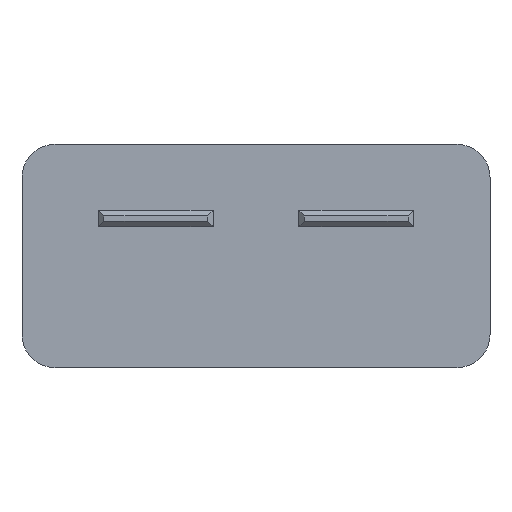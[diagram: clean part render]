
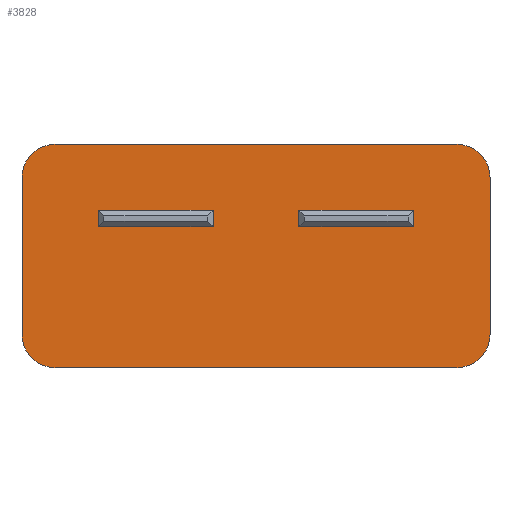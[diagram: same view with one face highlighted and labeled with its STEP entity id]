
A CAD part, front view. The second image highlights one B-rep face of the part: STEP entity #3828.
In plain terms, the highlighted planar face has unit normal (0, -1, 0).
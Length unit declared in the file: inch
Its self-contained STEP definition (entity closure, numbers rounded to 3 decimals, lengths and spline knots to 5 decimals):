
#25=CIRCLE('',#4002,0.06);
#27=CIRCLE('',#4007,0.06);
#28=CIRCLE('',#4008,0.06);
#29=CIRCLE('',#4009,0.06);
#54=FACE_BOUND('',#562,.T.);
#55=FACE_BOUND('',#563,.T.);
#329=FACE_OUTER_BOUND('',#561,.T.);
#561=EDGE_LOOP('',(#3405,#3406,#3407,#3408,#3409,#3410,#3411,#3412));
#562=EDGE_LOOP('',(#3413,#3414,#3415,#3416));
#563=EDGE_LOOP('',(#3417,#3418,#3419,#3420));
#1031=LINE('',#6766,#1425);
#1033=LINE('',#6770,#1427);
#1035=LINE('',#6774,#1429);
#1037=LINE('',#6777,#1431);
#1082=LINE('',#6869,#1476);
#1085=LINE('',#6874,#1479);
#1087=LINE('',#6878,#1481);
#1088=LINE('',#6880,#1482);
#1092=LINE('',#6899,#1486);
#1094=LINE('',#6903,#1488);
#1095=LINE('',#6907,#1489);
#1096=LINE('',#6911,#1490);
#1425=VECTOR('',#4563,0.3937);
#1427=VECTOR('',#4567,0.3937);
#1429=VECTOR('',#4571,0.3937);
#1431=VECTOR('',#4575,0.3937);
#1476=VECTOR('',#4668,0.3937);
#1479=VECTOR('',#4673,0.3937);
#1481=VECTOR('',#4677,0.3937);
#1482=VECTOR('',#4680,0.3937);
#1486=VECTOR('',#4702,0.3937);
#1488=VECTOR('',#4706,0.3937);
#1489=VECTOR('',#4709,0.3937);
#1490=VECTOR('',#4712,0.3937);
#1794=VERTEX_POINT('',#6763);
#1795=VERTEX_POINT('',#6765);
#1796=VERTEX_POINT('',#6769);
#1797=VERTEX_POINT('',#6773);
#1819=VERTEX_POINT('',#6866);
#1820=VERTEX_POINT('',#6868);
#1821=VERTEX_POINT('',#6872);
#1822=VERTEX_POINT('',#6876);
#1825=VERTEX_POINT('',#6888);
#1826=VERTEX_POINT('',#6889);
#1828=VERTEX_POINT('',#6898);
#1829=VERTEX_POINT('',#6902);
#1830=VERTEX_POINT('',#6904);
#1831=VERTEX_POINT('',#6906);
#1832=VERTEX_POINT('',#6908);
#1833=VERTEX_POINT('',#6910);
#2293=EDGE_CURVE('',#1795,#1794,#1031,.T.);
#2295=EDGE_CURVE('',#1796,#1795,#1033,.T.);
#2297=EDGE_CURVE('',#1797,#1796,#1035,.T.);
#2299=EDGE_CURVE('',#1794,#1797,#1037,.T.);
#2344=EDGE_CURVE('',#1820,#1819,#1082,.T.);
#2347=EDGE_CURVE('',#1819,#1821,#1085,.T.);
#2349=EDGE_CURVE('',#1821,#1822,#1087,.T.);
#2350=EDGE_CURVE('',#1822,#1820,#1088,.T.);
#2354=EDGE_CURVE('',#1825,#1826,#25,.T.);
#2359=EDGE_CURVE('',#1828,#1826,#1092,.T.);
#2361=EDGE_CURVE('',#1825,#1829,#1094,.T.);
#2362=EDGE_CURVE('',#1830,#1829,#27,.T.);
#2363=EDGE_CURVE('',#1830,#1831,#1095,.T.);
#2364=EDGE_CURVE('',#1832,#1831,#28,.T.);
#2365=EDGE_CURVE('',#1832,#1833,#1096,.T.);
#2366=EDGE_CURVE('',#1828,#1833,#29,.T.);
#3405=ORIENTED_EDGE('',*,*,#2354,.F.);
#3406=ORIENTED_EDGE('',*,*,#2361,.T.);
#3407=ORIENTED_EDGE('',*,*,#2362,.F.);
#3408=ORIENTED_EDGE('',*,*,#2363,.T.);
#3409=ORIENTED_EDGE('',*,*,#2364,.F.);
#3410=ORIENTED_EDGE('',*,*,#2365,.T.);
#3411=ORIENTED_EDGE('',*,*,#2366,.F.);
#3412=ORIENTED_EDGE('',*,*,#2359,.T.);
#3413=ORIENTED_EDGE('',*,*,#2293,.T.);
#3414=ORIENTED_EDGE('',*,*,#2299,.T.);
#3415=ORIENTED_EDGE('',*,*,#2297,.T.);
#3416=ORIENTED_EDGE('',*,*,#2295,.T.);
#3417=ORIENTED_EDGE('',*,*,#2344,.T.);
#3418=ORIENTED_EDGE('',*,*,#2347,.T.);
#3419=ORIENTED_EDGE('',*,*,#2349,.T.);
#3420=ORIENTED_EDGE('',*,*,#2350,.T.);
#3607=PLANE('',#4006);
#3828=ADVANCED_FACE('',(#329,#54,#55),#3607,.T.);
#4002=AXIS2_PLACEMENT_3D('',#6890,#4691,#4692);
#4006=AXIS2_PLACEMENT_3D('',#6901,#4704,#4705);
#4007=AXIS2_PLACEMENT_3D('',#6905,#4707,#4708);
#4008=AXIS2_PLACEMENT_3D('',#6909,#4710,#4711);
#4009=AXIS2_PLACEMENT_3D('',#6912,#4713,#4714);
#4563=DIRECTION('',(0.,0.,-1.));
#4567=DIRECTION('',(1.,0.,0.));
#4571=DIRECTION('',(0.,0.,1.));
#4575=DIRECTION('',(-1.,0.,0.));
#4668=DIRECTION('',(0.,0.,1.));
#4673=DIRECTION('',(1.,0.,0.));
#4677=DIRECTION('',(0.,0.,-1.));
#4680=DIRECTION('',(-1.,0.,0.));
#4691=DIRECTION('center_axis',(0.,1.,0.));
#4692=DIRECTION('ref_axis',(-0.707,0.,-0.707));
#4702=DIRECTION('',(0.,0.,-1.));
#4704=DIRECTION('center_axis',(0.,-1.,0.));
#4705=DIRECTION('ref_axis',(0.,0.,-1.));
#4706=DIRECTION('',(1.,0.,0.));
#4707=DIRECTION('center_axis',(0.,1.,0.));
#4708=DIRECTION('ref_axis',(0.707,0.,-0.707));
#4709=DIRECTION('',(0.,0.,1.));
#4710=DIRECTION('center_axis',(0.,1.,0.));
#4711=DIRECTION('ref_axis',(0.707,0.,0.707));
#4712=DIRECTION('',(-1.,0.,0.));
#4713=DIRECTION('center_axis',(0.,1.,0.));
#4714=DIRECTION('ref_axis',(-0.707,0.,0.707));
#6763=CARTESIAN_POINT('',(-0.07784,-0.68898,0.05276));
#6765=CARTESIAN_POINT('',(-0.07784,-0.68898,0.08276));
#6766=CARTESIAN_POINT('',(-0.07784,-0.68898,0.04138));
#6769=CARTESIAN_POINT('',(-0.2865,-0.68898,0.08276));
#6770=CARTESIAN_POINT('',(-0.14325,-0.68898,0.08276));
#6773=CARTESIAN_POINT('',(-0.2865,-0.68898,0.05276));
#6774=CARTESIAN_POINT('',(-0.2865,-0.68898,0.02638));
#6777=CARTESIAN_POINT('',(-0.03892,-0.68898,0.05276));
#6866=CARTESIAN_POINT('',(0.07784,-0.68898,0.08276));
#6868=CARTESIAN_POINT('',(0.07784,-0.68898,0.05276));
#6869=CARTESIAN_POINT('',(0.07784,-0.68898,0.04138));
#6872=CARTESIAN_POINT('',(0.2865,-0.68898,0.08276));
#6874=CARTESIAN_POINT('',(0.14325,-0.68898,0.08276));
#6876=CARTESIAN_POINT('',(0.2865,-0.68898,0.05276));
#6878=CARTESIAN_POINT('',(0.2865,-0.68898,0.02638));
#6880=CARTESIAN_POINT('',(0.03892,-0.68898,0.05276));
#6888=CARTESIAN_POINT('',(-0.3652,-0.68898,-0.20276));
#6889=CARTESIAN_POINT('',(-0.4252,-0.68898,-0.14276));
#6890=CARTESIAN_POINT('Origin',(-0.3652,-0.68898,-0.14276));
#6898=CARTESIAN_POINT('',(-0.4252,-0.68898,0.14276));
#6899=CARTESIAN_POINT('',(-0.4252,-0.68898,-0.20276));
#6901=CARTESIAN_POINT('Origin',(0.,-0.68898,
0.));
#6902=CARTESIAN_POINT('',(0.3652,-0.68898,-0.20276));
#6903=CARTESIAN_POINT('',(0.4252,-0.68898,-0.20276));
#6904=CARTESIAN_POINT('',(0.4252,-0.68898,-0.14276));
#6905=CARTESIAN_POINT('Origin',(0.3652,-0.68898,-0.14276));
#6906=CARTESIAN_POINT('',(0.4252,-0.68898,0.14276));
#6907=CARTESIAN_POINT('',(0.4252,-0.68898,0.20276));
#6908=CARTESIAN_POINT('',(0.3652,-0.68898,0.20276));
#6909=CARTESIAN_POINT('Origin',(0.3652,-0.68898,0.14276));
#6910=CARTESIAN_POINT('',(-0.3652,-0.68898,0.20276));
#6911=CARTESIAN_POINT('',(-0.4252,-0.68898,0.20276));
#6912=CARTESIAN_POINT('Origin',(-0.3652,-0.68898,0.14276));
